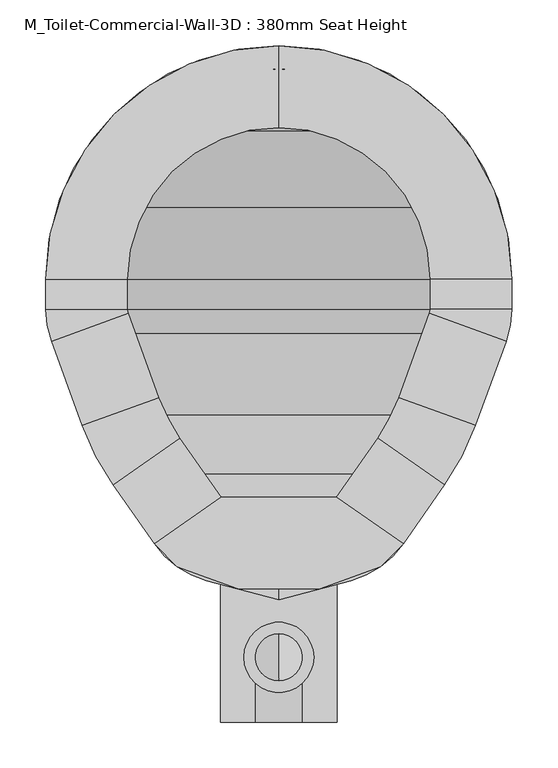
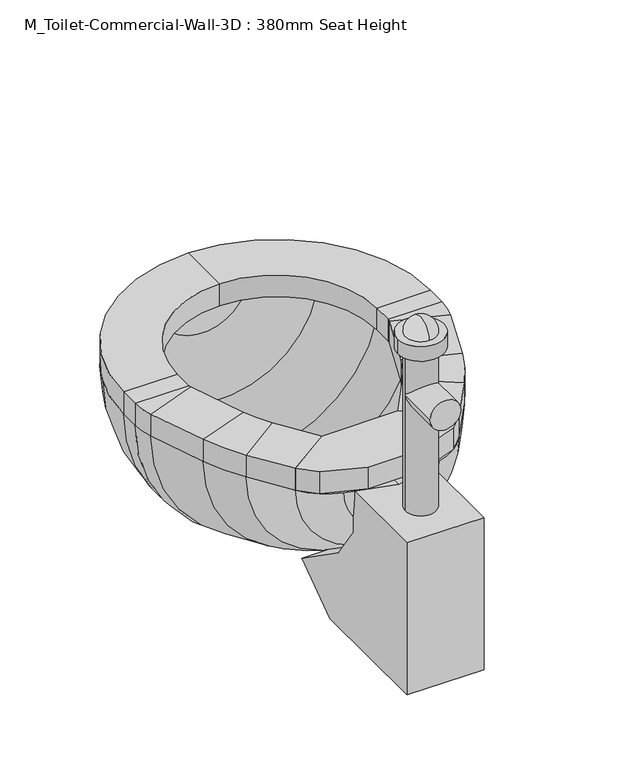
"""IFC4 building model written with IfcOpenShell, lengths in millimetres: flow terminal geometry, M_Toilet-Commercial-Wall-3D : 380mm Seat Height."""

import ifcopenshell
import ifcopenshell.guid

model = None  # the IFC model being written
_history = None  # IfcOwnerHistory: only IFC2X3 demands one
_inside = {}  # id of a spatial element -> (the spatial element, [elements in it])
_under = {}  # id of a project, library or spatial element -> (it, [spatial elements below it])
_declared = {}  # id of a project -> (the project, [libraries it declares])
_typed = {}  # id of a type object -> (the type object, [elements of that type])
_made_of = {}  # id of a material, layer set ... -> (it, [elements and type objects made of it])


def new_model(schema):
    """Start an empty IFC model of exactly this schema.

    Asked for "IFC4X3", IfcOpenShell would pick the latest addendum, in which some entities
    have other attributes; the version numbers below select the first issue.
    IFC2X3 requires an IfcOwnerHistory on every rooted entity: one is made here for all.
    """
    global model, _history
    if schema == "IFC4X3":
        model = ifcopenshell.file(schema_version=(4, 3, 0, 0))
    else:
        model = ifcopenshell.file(schema=schema)
    _inside.clear()
    _under.clear()
    _declared.clear()
    _typed.clear()
    _made_of.clear()
    _history = None
    if model.schema == "IFC2X3":
        org = make("IfcOrganization", Name="unknown")
        user = make(
            "IfcPersonAndOrganization",
            ThePerson=make("IfcPerson", FamilyName="unknown"),
            TheOrganization=org,
        )
        app = make(
            "IfcApplication",
            ApplicationDeveloper=org,
            Version="unknown",
            ApplicationFullName="unknown",
            ApplicationIdentifier="unknown",
        )
        _history = make(
            "IfcOwnerHistory",
            OwningUser=user,
            OwningApplication=app,
            ChangeAction="ADDED",
            CreationDate=0,
        )
    return model


def make(cls, **values):
    """One entity of the class cls with the attributes given. An attribute that is None is left unset."""
    return model.create_entity(
        cls, **{name: value for name, value in values.items() if value is not None}
    )


def rooted(cls, **values):
    """An entity with a GlobalId (a new one), such as an element, a storey or a relation."""
    return make(cls, GlobalId=ifcopenshell.guid.new(), OwnerHistory=_history, **values)


def si_unit(unit_type, name, prefix=None):
    """IfcSIUnit, for example si_unit("LENGTHUNIT", "METRE", prefix="MILLI")."""
    return make("IfcSIUnit", UnitType=unit_type, Prefix=prefix, Name=name)


def assignment(units):
    """IfcUnitAssignment: the units of a project."""
    return None if units is None else make("IfcUnitAssignment", Units=units)


def point(xyz):
    """IfcCartesianPoint."""
    return None if xyz is None else make("IfcCartesianPoint", Coordinates=xyz)


def direction(xyz):
    """IfcDirection."""
    return None if xyz is None else make("IfcDirection", DirectionRatios=xyz)


def frame(location, z_axis=None, x_axis=None):
    """IfcAxis2Placement3D, a coordinate frame: its origin and axes. An axis left out is left unset."""
    return make(
        "IfcAxis2Placement3D",
        Location=point(location),
        Axis=direction(z_axis),
        RefDirection=direction(x_axis),
    )


def frame_2d(location, x_axis=None):
    """IfcAxis2Placement2D, a coordinate frame in the plane: its origin and x axis."""
    return make(
        "IfcAxis2Placement2D", Location=point(location), RefDirection=direction(x_axis)
    )


def origin():
    """The frame at (0, 0, 0) with its axes left unset."""
    return frame((0.0, 0.0, 0.0))


def place(relative_to, where):
    """IfcLocalPlacement: puts the frame where relative to a parent placement (None: the world)."""
    return make(
        "IfcLocalPlacement", PlacementRelTo=relative_to, RelativePlacement=where
    )


def context(
    kind, dimensions, precision=None, world=None, true_north=None, identifier=None
):
    """IfcGeometricRepresentationContext, for example the 3D "Model" context."""
    return make(
        "IfcGeometricRepresentationContext",
        ContextIdentifier=identifier,
        ContextType=kind,
        CoordinateSpaceDimension=dimensions,
        Precision=precision,
        WorldCoordinateSystem=world,
        TrueNorth=true_north,
    )


def project(units=None, contexts=None):
    """IfcProject with its units and contexts."""
    return rooted(
        "IfcProject",
        Name="project",
        RepresentationContexts=contexts,
        UnitsInContext=assignment(units),
    )


def spatial(cls, under=None, at=None, **own):
    """A site, building, storey or space (cls), placed at a placement, below another one or the project."""
    s = rooted(cls, ObjectPlacement=at, **own)
    if under is not None:
        _under.setdefault(under.id(), (under, []))[1].append(s)
    return s


def polyline(points):
    """IfcPolyline through the points."""
    return make("IfcPolyline", Points=[point(p) for p in points])


def circle_curve(where, radius):
    """IfcCircle in the frame where."""
    return make("IfcCircle", Position=where, Radius=radius)


def ellipse_curve(where, semi_axis1, semi_axis2):
    """IfcEllipse in the frame where."""
    return make(
        "IfcEllipse", Position=where, SemiAxis1=semi_axis1, SemiAxis2=semi_axis2
    )


def trimmed(basis, trim1, trim2, sense, master):
    """IfcTrimmedCurve: the piece of a basis curve between two trims."""
    return make(
        "IfcTrimmedCurve",
        BasisCurve=basis,
        Trim1=trim1,
        Trim2=trim2,
        SenseAgreement=sense,
        MasterRepresentation=master,
    )


def segment(curve, same_sense, transition):
    """IfcCompositeCurveSegment."""
    return make(
        "IfcCompositeCurveSegment",
        Transition=transition,
        SameSense=same_sense,
        ParentCurve=curve,
    )


def composite_curve(segments, self_intersect=None):
    """IfcCompositeCurve: segments joined end to end."""
    return make("IfcCompositeCurve", Segments=segments, SelfIntersect=self_intersect)


def outline(outer, holes=None, kind="AREA"):
    """IfcArbitraryClosedProfileDef: a profile drawn as a closed curve; with holes, ...WithVoids."""
    if holes is None:
        return make("IfcArbitraryClosedProfileDef", ProfileType=kind, OuterCurve=outer)
    return make(
        "IfcArbitraryProfileDefWithVoids",
        ProfileType=kind,
        OuterCurve=outer,
        InnerCurves=holes,
    )


def extrude(swept, where, along, depth):
    """IfcExtrudedAreaSolid: the profile swept, set in the frame where, extruded along a direction by depth."""
    return make(
        "IfcExtrudedAreaSolid",
        SweptArea=swept,
        Position=where,
        ExtrudedDirection=direction(along),
        Depth=depth,
    )


def shape(context_of_items, identifier, shape_type, items):
    """IfcShapeRepresentation: the items that make up one representation, for example the "Body"."""
    return make(
        "IfcShapeRepresentation",
        ContextOfItems=context_of_items,
        RepresentationIdentifier=identifier,
        RepresentationType=shape_type,
        Items=items,
    )


def source(mapping_origin, context_of_items, identifier, shape_type, items):
    """IfcRepresentationMap: a shape defined once, which mapped items show again and again."""
    return make(
        "IfcRepresentationMap",
        MappingOrigin=mapping_origin,
        MappedRepresentation=shape(context_of_items, identifier, shape_type, items),
    )


def transform(
    local_origin,
    x_axis=None,
    y_axis=None,
    z_axis=None,
    scale=None,
    scale2=None,
    scale3=None,
    uniform=True,
):
    """IfcCartesianTransformationOperator3D, or its non-uniform kind. x_axis, y_axis, z_axis: its Axis1, 2, 3."""
    if uniform:
        return make(
            "IfcCartesianTransformationOperator3D",
            Axis1=direction(x_axis),
            Axis2=direction(y_axis),
            LocalOrigin=point(local_origin),
            Scale=scale,
            Axis3=direction(z_axis),
        )
    return make(
        "IfcCartesianTransformationOperator3DnonUniform",
        Axis1=direction(x_axis),
        Axis2=direction(y_axis),
        LocalOrigin=point(local_origin),
        Scale=scale,
        Axis3=direction(z_axis),
        Scale2=scale2,
        Scale3=scale3,
    )


def mapped(mapping_source, mapping_target):
    """IfcMappedItem: shows the shape of a source again, moved by a transform."""
    return make(
        "IfcMappedItem", MappingSource=mapping_source, MappingTarget=mapping_target
    )


def made_of(thing, what):
    """Note that an element or type object is made of a material, layer set ...; save() writes the relation."""
    if what is not None:
        _made_of.setdefault(what.id(), (what, []))[1].append(thing)
    return thing


def element(
    cls,
    number,
    at=None,
    inside=None,
    cuts=None,
    type_object=None,
    material=None,
    context=None,
    identifier="Body",
    shape_type=None,
    held_by="IfcProductDefinitionShape",
    body=None,
    shapes=None,
    **own,
):
    """One element of the class cls, such as IfcWall. Its Tag is "e" and its number.

    at: its placement. inside: the storey or other place that contains it. cuts: it is an
    opening in that element (IfcRelVoidsElement). A single representation is given by context,
    identifier, shape_type and body (its items); several are given by shapes. held_by: the class
    of the entity that holds the representations. save() writes the other relations.
    """
    e = rooted(cls, Tag="e%d" % number, ObjectPlacement=at, **own)
    if body is not None:
        shapes = [shape(context, identifier, shape_type, body)]
    if shapes is not None:
        e.Representation = make(held_by, Representations=shapes)
    if inside is not None:
        _inside.setdefault(inside.id(), (inside, []))[1].append(e)
    if cuts is not None:
        rooted(
            "IfcRelVoidsElement", RelatingBuildingElement=cuts, RelatedOpeningElement=e
        )
    if type_object is not None:
        _typed.setdefault(type_object.id(), (type_object, []))[1].append(e)
    return made_of(e, material)


def aggregate(whole, parts):
    """IfcRelAggregates: a whole, such as a stair, and the parts it consists of."""
    return rooted("IfcRelAggregates", RelatingObject=whole, RelatedObjects=parts)


def save(model, path):
    """Write the relations noted so far, then the file.

    IfcRelAggregates (storeys below a building ...), IfcRelContainedInSpatialStructure (elements
    in a storey), IfcRelDefinesByType, IfcRelAssociatesMaterial and IfcRelDeclares: one each for
    every whole, place, type object, material and project.
    """
    for whole, parts in _under.values():
        aggregate(whole, parts)
    for where, things in _inside.values():
        rooted(
            "IfcRelContainedInSpatialStructure",
            RelatedElements=things,
            RelatingStructure=where,
        )
    for kind, things in _typed.values():
        rooted("IfcRelDefinesByType", RelatedObjects=things, RelatingType=kind)
    for what, things in _made_of.values():
        rooted("IfcRelAssociatesMaterial", RelatedObjects=things, RelatingMaterial=what)
    for by, libraries in _declared.values():
        rooted("IfcRelDeclares", RelatingContext=by, RelatedDefinitions=libraries)
    model.write(path)


def plane_surface(at):
    """IfcPlane: the flat surface through the origin of the frame at, square to its z axis."""
    return make("IfcPlane", Position=at)


def cylinder_surface(at, radius):
    """IfcCylindricalSurface: all points at the distance radius from the z axis of the frame at."""
    return make("IfcCylindricalSurface", Position=at, Radius=radius)


def revolved_surface(curve, axis_point, axis_direction):
    """IfcSurfaceOfRevolution: the curve turned about the line through axis_point along axis_direction."""
    return make(
        "IfcSurfaceOfRevolution",
        SweptCurve=make("IfcArbitraryOpenProfileDef", ProfileType="CURVE", Curve=curve),
        AxisPosition=make("IfcAxis1Placement", Location=point(axis_point), Axis=direction(axis_direction)),
    )


def advanced_brep(points, edges, surfaces, faces):
    """IfcAdvancedBrep: a solid bounded by faces that lie on surfaces and meet in shared edges.

    An edge is (start, end): straight between two places in points (the first is 0);
    or (start, end, curve); or (start, end, curve, False) where it runs against its curve.
    A face is (place in surfaces, loops), or (place, loops, False) where it looks against
    its surface's normal. A loop lists edges by number (the first is 1), with a minus sign
    where the edge is run from its end to its start. The first loop is the outer one.
    """
    corners = [point(p) for p in points]
    vertices = [make("IfcVertexPoint", VertexGeometry=c) for c in corners]
    made = []
    for start, end, *more in edges:
        made.append(
            make(
                "IfcEdgeCurve",
                EdgeStart=vertices[start],
                EdgeEnd=vertices[end],
                EdgeGeometry=more[0] if more else make("IfcPolyline", Points=[corners[start], corners[end]]),
                SameSense=more[1] if len(more) > 1 else True,
            )
        )
    hull = []
    for where, loops, *sense in faces:
        bounds = []
        for j, loop in enumerate(loops):
            ring = [make("IfcOrientedEdge", EdgeElement=made[abs(k) - 1], Orientation=k > 0) for k in loop]
            bounds.append(
                make(
                    "IfcFaceOuterBound" if j == 0 else "IfcFaceBound",
                    Bound=make("IfcEdgeLoop", EdgeList=ring),
                    Orientation=True,
                )
            )
        hull.append(make("IfcAdvancedFace", Bounds=bounds, FaceSurface=surfaces[where], SameSense=sense[0] if sense else True))
    return make("IfcAdvancedBrep", Outer=make("IfcClosedShell", CfsFaces=hull))


def m_toilet_commercial_wall_3d_380mm_seat_height_891fc42f(model_context):
    return source(origin(), model_context, "Body", "SolidModel", [
        extrude(outline(polyline([(467.7541169, 420.0347495), (540.5767337, 369.0438043), (515.6262519, 344.0933226), (449.563909, 320.0485961), (360.2423986, 320.0485961), (294.1800557, 344.0933226), (269.229574, 369.0438043), (342.0521907, 420.0347495), (467.7541169, 420.0347495)])), frame((0.0, 0.0, 341.9), z_axis=(0.0, 0.0, 1.0), x_axis=(1.0, 0.0, 0.0)), (0.0, 0.0, 1.0), 38.1),
        advanced_brep(
        [(467.7541169, 420.0347495, 341.9), (540.5767337, 369.0438043, 341.9), (540.5767337, 369.0438043, 380.0), (467.7541169, 420.0347495, 380.0), (512.8583992, 484.4503403, 341.9), (585.6810159, 433.4593951, 341.9), (585.6810159, 433.4593951, 380.0), (512.8583992, 484.4503403, 380.0), (619.360053, 498.1562234, 341.9), (535.821379, 528.5618141, 341.9), (619.360053, 498.1562234, 380.0), (535.821379, 528.5618141, 380.0), (569.2372501, 620.3711654, 341.9), (652.7759241, 589.9655747, 341.9), (652.7759241, 589.9655747, 380.0), (569.2372501, 620.3711654, 380.0), (658.9031538, 624.7148212, 341.9), (570.0031538, 624.7148212, 341.9), (658.9031538, 624.7148212, 380.0), (570.0031538, 624.7148212, 380.0), (570.0031538, 657.6, 341.9), (658.9031538, 657.6, 341.9), (658.9031538, 657.6, 380.0), (570.0031538, 657.6, 380.0), (404.9031538, 911.6, 341.9), (404.9031538, 822.7, 341.9), (404.9031538, 911.6, 380.0), (404.9031538, 822.7, 380.0), (150.9031538, 657.6, 341.9), (239.8031538, 657.6, 341.9), (150.9031538, 657.6, 380.0), (239.8031538, 657.6, 380.0), (239.8031538, 624.7148212, 341.9), (150.9031538, 624.7148212, 341.9), (150.9031538, 624.7148212, 380.0), (239.8031538, 624.7148212, 380.0), (157.0303835, 589.9655747, 341.9), (240.5690575, 620.3711654, 341.9), (157.0303835, 589.9655747, 380.0), (240.5690575, 620.3711654, 380.0), (273.9849286, 528.5618141, 341.9), (190.4462546, 498.1562234, 341.9), (190.4462546, 498.1562234, 380.0), (273.9849286, 528.5618141, 380.0), (224.1252917, 433.4593951, 341.9), (296.9479084, 484.4503403, 341.9), (224.1252917, 433.4593951, 380.0), (296.9479084, 484.4503403, 380.0), (342.0521907, 420.0347495, 341.9), (342.0521907, 420.0347495, 380.0), (269.229574, 369.0438043, 380.0), (269.229574, 369.0438043, 341.9)],
        [
            (0, 1),
            (1, 2),
            (2, 3),
            (3, 0),
            (0, 4),
            (4, 5),
            (5, 1),
            (5, 6),
            (6, 2),
            (6, 7),
            (7, 3),
            (7, 4),
            (8, 5, circle_curve(frame((356.8099347, 593.7166514, 341.9), z_axis=(0.0, 0.0, -1.0), x_axis=(0.819152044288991, -0.5735764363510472, 0.0)), 279.4)),
            (4, 9, circle_curve(frame((356.8099347, 593.7166514, 341.9), z_axis=(0.0, 0.0, 1.0), x_axis=(0.819152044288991, -0.5735764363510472, 0.0)), 190.5)),
            (9, 8),
            (10, 6, circle_curve(frame((356.8099347, 593.7166514, 380.0), z_axis=(0.0, 0.0, -1.0), x_axis=(0.819152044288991, -0.5735764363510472, 0.0)), 279.4)),
            (8, 10),
            (11, 7, circle_curve(frame((356.8099347, 593.7166514, 380.0), z_axis=(0.0, 0.0, -1.0), x_axis=(0.819152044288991, -0.5735764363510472, 0.0)), 190.5)),
            (10, 11),
            (11, 9),
            (9, 12),
            (12, 13),
            (13, 8),
            (13, 14),
            (14, 10),
            (14, 15),
            (15, 11),
            (15, 12),
            (16, 13, circle_curve(frame((557.3031538, 624.7148212, 341.9), z_axis=(0.0, 0.0, -1.0), x_axis=(0.9396926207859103, -0.34202014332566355, 0.0)), 101.6)),
            (12, 17, circle_curve(frame((557.3031538, 624.7148212, 341.9), z_axis=(0.0, 0.0, 1.0), x_axis=(0.9396926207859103, -0.34202014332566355, 0.0)), 12.7)),
            (17, 16),
            (18, 14, circle_curve(frame((557.3031538, 624.7148212, 380.0), z_axis=(0.0, 0.0, -1.0), x_axis=(0.9396926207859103, -0.34202014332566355, 0.0)), 101.6)),
            (16, 18),
            (19, 15, circle_curve(frame((557.3031538, 624.7148212, 380.0), z_axis=(0.0, 0.0, -1.0), x_axis=(0.9396926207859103, -0.34202014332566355, 0.0)), 12.7)),
            (18, 19),
            (19, 17),
            (17, 20),
            (20, 21),
            (21, 16),
            (21, 22),
            (22, 18),
            (22, 23),
            (23, 19),
            (23, 20),
            (24, 21, circle_curve(frame((404.9031538, 657.6, 341.9), z_axis=(0.0, 0.0, -1.0), x_axis=(1.0, 0.0, 0.0)), 254.0)),
            (20, 25, circle_curve(frame((404.9031538, 657.6, 341.9), z_axis=(0.0, 0.0, 1.0), x_axis=(1.0, 0.0, 0.0)), 165.1)),
            (25, 24),
            (26, 22, circle_curve(frame((404.9031538, 657.6, 380.0), z_axis=(0.0, 0.0, -1.0), x_axis=(1.0, 0.0, 0.0)), 254.0)),
            (24, 26),
            (27, 23, circle_curve(frame((404.9031538, 657.6, 380.0), z_axis=(0.0, 0.0, -1.0), x_axis=(1.0, 0.0, 0.0)), 165.1)),
            (26, 27),
            (27, 25),
            (28, 24, circle_curve(frame((404.9031538, 657.6, 341.9), z_axis=(0.0, 0.0, -1.0), x_axis=(0.0, 1.0, 0.0)), 254.0)),
            (25, 29, circle_curve(frame((404.9031538, 657.6, 341.9), z_axis=(0.0, 0.0, 1.0), x_axis=(0.0, 1.0, 0.0)), 165.1)),
            (29, 28),
            (30, 26, circle_curve(frame((404.9031538, 657.6, 380.0), z_axis=(0.0, 0.0, -1.0), x_axis=(0.0, 1.0, 0.0)), 254.0)),
            (28, 30),
            (31, 27, circle_curve(frame((404.9031538, 657.6, 380.0), z_axis=(0.0, 0.0, -1.0), x_axis=(0.0, 1.0, 0.0)), 165.1)),
            (30, 31),
            (31, 29),
            (29, 32),
            (32, 33),
            (33, 28),
            (33, 34),
            (34, 30),
            (34, 35),
            (35, 31),
            (35, 32),
            (36, 33, circle_curve(frame((252.5031538, 624.7148212, 341.9), z_axis=(0.0, 0.0, -1.0), x_axis=(-1.0, 0.0, 0.0)), 101.6)),
            (32, 37, circle_curve(frame((252.5031538, 624.7148212, 341.9), z_axis=(0.0, 0.0, 1.0), x_axis=(-1.0, 0.0, 0.0)), 12.7)),
            (37, 36),
            (38, 34, circle_curve(frame((252.5031538, 624.7148212, 380.0), z_axis=(0.0, 0.0, -1.0), x_axis=(-1.0, 0.0, 0.0)), 101.6)),
            (36, 38),
            (39, 35, circle_curve(frame((252.5031538, 624.7148212, 380.0), z_axis=(0.0, 0.0, -1.0), x_axis=(-1.0, 0.0, 0.0)), 12.7)),
            (38, 39),
            (39, 37),
            (37, 40),
            (40, 41),
            (41, 36),
            (41, 42),
            (42, 38),
            (42, 43),
            (43, 39),
            (43, 40),
            (44, 41, circle_curve(frame((452.9963729, 593.7166514, 341.9), z_axis=(0.0, 0.0, -1.0), x_axis=(-0.9396926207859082, -0.3420201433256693, 0.0)), 279.4)),
            (40, 45, circle_curve(frame((452.9963729, 593.7166514, 341.9), z_axis=(0.0, 0.0, 1.0), x_axis=(-0.9396926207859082, -0.3420201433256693, 0.0)), 190.5)),
            (45, 44),
            (46, 42, circle_curve(frame((452.9963729, 593.7166514, 380.0), z_axis=(0.0, 0.0, -1.0), x_axis=(-0.9396926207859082, -0.3420201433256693, 0.0)), 279.4)),
            (44, 46),
            (47, 43, circle_curve(frame((452.9963729, 593.7166514, 380.0), z_axis=(0.0, 0.0, -1.0), x_axis=(-0.9396926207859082, -0.3420201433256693, 0.0)), 190.5)),
            (46, 47),
            (47, 45),
            (48, 49),
            (49, 50),
            (50, 51),
            (51, 48),
            (45, 48),
            (51, 44),
            (50, 46),
            (49, 47),
        ],
        [
            plane_surface(frame((540.5767337, 369.0438043, 438.6203184), z_axis=(-0.5735764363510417, -0.8191520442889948, 0.0), x_axis=(0.8191520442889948, -0.5735764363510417, 0.0))),
            plane_surface(frame((467.7541169, 420.0347495, 341.9), z_axis=(0.0, 0.0, -1.0), x_axis=(0.5735764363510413, 0.8191520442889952, 0.0))),
            plane_surface(frame((540.5767337, 369.0438043, 341.9), z_axis=(0.819152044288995, -0.5735764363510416, 0.0), x_axis=(0.5735764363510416, 0.819152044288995, 0.0))),
            plane_surface(frame((540.5767337, 369.0438043, 380.0), z_axis=(0.0, 0.0, 1.0), x_axis=(0.5735764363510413, 0.8191520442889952, 0.0))),
            plane_surface(frame((467.7541169, 420.0347495, 380.0), z_axis=(-0.819152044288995, 0.5735764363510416, 0.0), x_axis=(0.5735764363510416, 0.819152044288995, 0.0))),
            plane_surface(frame((356.8099347, 593.7166514, 341.9), z_axis=(0.0, 0.0, -1.0), x_axis=(0.819152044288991, -0.5735764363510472, 0.0))),
            cylinder_surface(frame((356.8099347, 593.7166514, 341.9), z_axis=(0.0, 0.0, 1.0), x_axis=(0.819152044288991, -0.5735764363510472, 0.0)), 279.4),
            plane_surface(frame((356.8099347, 593.7166514, 380.0), z_axis=(0.0, 0.0, 1.0), x_axis=(0.819152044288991, -0.5735764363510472, 0.0))),
            revolved_surface(polyline([(512.8583991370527, 484.45034027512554, 380.0), (512.8583991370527, 484.45034027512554, 341.9)]), (356.8099347, 593.7166514, 341.9), (0.0, 0.0, 1.0)),
            plane_surface(frame((535.821379, 528.5618141, 341.9), z_axis=(0.0, 0.0, -1.0), x_axis=(0.34202014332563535, 0.9396926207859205, 0.0))),
            plane_surface(frame((619.360053, 498.1562234, 341.9), z_axis=(0.9396926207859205, -0.3420201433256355, 0.0), x_axis=(0.3420201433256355, 0.9396926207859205, 0.0))),
            plane_surface(frame((619.360053, 498.1562234, 380.0), z_axis=(0.0, 0.0, 1.0), x_axis=(0.34202014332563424, 0.939692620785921, 0.0))),
            plane_surface(frame((535.821379, 528.5618141, 380.0), z_axis=(-0.9396926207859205, 0.34202014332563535, 0.0), x_axis=(0.34202014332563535, 0.9396926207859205, 0.0))),
            plane_surface(frame((557.3031538, 624.7148212, 341.9), z_axis=(0.0, 0.0, -1.0), x_axis=(0.9396926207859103, -0.34202014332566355, 0.0))),
            cylinder_surface(frame((557.3031538, 624.7148212, 341.9), z_axis=(0.0, 0.0, 1.0), x_axis=(0.9396926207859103, -0.34202014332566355, 0.0)), 101.6),
            plane_surface(frame((557.3031538, 624.7148212, 380.0), z_axis=(0.0, 0.0, 1.0), x_axis=(0.9396926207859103, -0.34202014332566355, 0.0))),
            revolved_surface(polyline([(569.237250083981, 620.3711653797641, 380.0), (569.237250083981, 620.3711653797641, 341.9)]), (557.3031538, 624.7148212, 341.9), (0.0, 0.0, 1.0)),
            plane_surface(frame((570.0031538, 624.7148212, 341.9), z_axis=(0.0, 0.0, -1.0), x_axis=(0.0, 1.0, 0.0))),
            plane_surface(frame((658.9031538, 624.7148212, 341.9), z_axis=(1.0, 0.0, 0.0), x_axis=(0.0, 1.0, 0.0))),
            plane_surface(frame((658.9031538, 624.7148212, 380.0), z_axis=(0.0, 0.0, 1.0), x_axis=(0.0, 1.0, 0.0))),
            plane_surface(frame((570.0031538, 624.7148212, 380.0), z_axis=(-1.0, 0.0, 0.0), x_axis=(0.0, 1.0, 0.0))),
            plane_surface(frame((404.9031538, 657.6, 341.9), z_axis=(0.0, 0.0, -1.0), x_axis=(1.0, 0.0, 0.0))),
            cylinder_surface(frame((404.9031538, 657.6, 341.9), z_axis=(0.0, 0.0, 1.0), x_axis=(1.0, 0.0, 0.0)), 254.0),
            plane_surface(frame((404.9031538, 657.6, 380.0), z_axis=(0.0, 0.0, 1.0), x_axis=(1.0, 0.0, 0.0))),
            revolved_surface(polyline([(570.0031538, 657.6, 380.0), (570.0031538, 657.6, 341.9)]), (404.9031538, 657.6, 341.9), (0.0, 0.0, 1.0)),
            plane_surface(frame((404.9031538, 657.6, 341.9), z_axis=(0.0, 0.0, -1.0), x_axis=(0.0, 1.0, 0.0))),
            cylinder_surface(frame((404.9031538, 657.6, 341.9), z_axis=(0.0, 0.0, 1.0), x_axis=(0.0, 1.0, 0.0)), 254.0),
            plane_surface(frame((404.9031538, 657.6, 380.0), z_axis=(0.0, 0.0, 1.0), x_axis=(0.0, 1.0, 0.0))),
            revolved_surface(polyline([(404.9031538, 822.7, 380.0), (404.9031538, 822.7, 341.9)]), (404.9031538, 657.6, 341.9), (0.0, 0.0, 1.0)),
            plane_surface(frame((239.8031538, 657.6, 341.9), z_axis=(0.0, 0.0, -1.0), x_axis=(0.0, -1.0, 0.0))),
            plane_surface(frame((150.9031538, 657.6, 341.9), z_axis=(-1.0, 0.0, 0.0), x_axis=(0.0, -1.0, 0.0))),
            plane_surface(frame((150.9031538, 657.6, 380.0), z_axis=(0.0, 0.0, 1.0), x_axis=(0.0, -1.0, 0.0))),
            plane_surface(frame((239.8031538, 657.6, 380.0), z_axis=(1.0, 0.0, 0.0), x_axis=(0.0, -1.0, 0.0))),
            plane_surface(frame((252.5031538, 624.7148212, 341.9), z_axis=(0.0, 0.0, -1.0), x_axis=(-1.0, 0.0, 0.0))),
            cylinder_surface(frame((252.5031538, 624.7148212, 341.9), z_axis=(0.0, 0.0, 1.0), x_axis=(-1.0, 0.0, 0.0)), 101.6),
            plane_surface(frame((252.5031538, 624.7148212, 380.0), z_axis=(0.0, 0.0, 1.0), x_axis=(-1.0, 0.0, 0.0))),
            revolved_surface(polyline([(239.80315380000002, 624.7148212, 380.0), (239.80315380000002, 624.7148212, 341.9)]), (252.5031538, 624.7148212, 341.9), (0.0, 0.0, 1.0)),
            plane_surface(frame((240.5690575, 620.3711654, 341.9), z_axis=(0.0, 0.0, -1.0), x_axis=(0.3420201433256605, -0.9396926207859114, 0.0))),
            plane_surface(frame((157.0303835, 589.9655747, 341.9), z_axis=(-0.9396926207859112, -0.342020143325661, 0.0), x_axis=(0.342020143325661, -0.9396926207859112, 0.0))),
            plane_surface(frame((157.0303835, 589.9655747, 380.0), z_axis=(0.0, 0.0, 1.0), x_axis=(0.3420201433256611, -0.9396926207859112, 0.0))),
            plane_surface(frame((240.5690575, 620.3711654, 380.0), z_axis=(0.9396926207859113, 0.3420201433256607, 0.0), x_axis=(0.3420201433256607, -0.9396926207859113, 0.0))),
            plane_surface(frame((452.9963729, 593.7166514, 341.9), z_axis=(0.0, 0.0, -1.0), x_axis=(-0.9396926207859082, -0.3420201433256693, 0.0))),
            cylinder_surface(frame((452.9963729, 593.7166514, 341.9), z_axis=(0.0, 0.0, 1.0), x_axis=(-0.9396926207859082, -0.3420201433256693, 0.0)), 279.4),
            plane_surface(frame((452.9963729, 593.7166514, 380.0), z_axis=(0.0, 0.0, 1.0), x_axis=(-0.9396926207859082, -0.3420201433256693, 0.0))),
            revolved_surface(polyline([(273.98492864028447, 528.56181409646, 380.0), (273.98492864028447, 528.56181409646, 341.9)]), (452.9963729, 593.7166514, 341.9), (0.0, 0.0, 1.0)),
            plane_surface(frame((269.229574, 369.0438043, 245.1796816), z_axis=(0.5735764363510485, -0.8191520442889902, 0.0), x_axis=(0.8191520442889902, 0.5735764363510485, 0.0))),
            plane_surface(frame((296.9479084, 484.4503403, 341.9), z_axis=(0.0, 0.0, -1.0000000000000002), x_axis=(0.5735764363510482, -0.8191520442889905, 0.0))),
            plane_surface(frame((224.1252917, 433.4593951, 341.9), z_axis=(-0.8191520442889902, -0.5735764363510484, 0.0), x_axis=(0.5735764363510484, -0.8191520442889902, 0.0))),
            plane_surface(frame((224.1252917, 433.4593951, 380.0), z_axis=(0.0, 0.0, 1.0), x_axis=(0.5735764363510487, -0.8191520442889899, 0.0))),
            plane_surface(frame((296.9479084, 484.4503403, 380.0), z_axis=(0.8191520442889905, 0.5735764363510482, 0.0), x_axis=(0.5735764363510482, -0.8191520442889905, 0.0))),
        ],
        [
            (0, [[1, 2, 3, 4]]),
            (1, [[-1, 5, 6, 7]]),
            (2, [[-2, -7, 8, 9]]),
            (3, [[-3, -9, 10, 11]]),
            (4, [[-4, -11, 12, -5]]),
            (5, [[13, -6, 14, 15]]),
            (6, [[16, -8, -13, 17]]),
            (7, [[18, -10, -16, 19]]),
            (8, [[-14, -12, -18, 20]]),
            (9, [[-15, 21, 22, 23]]),
            (10, [[-17, -23, 24, 25]]),
            (11, [[-19, -25, 26, 27]]),
            (12, [[-20, -27, 28, -21]]),
            (13, [[29, -22, 30, 31]]),
            (14, [[32, -24, -29, 33]]),
            (15, [[34, -26, -32, 35]]),
            (16, [[-30, -28, -34, 36]]),
            (17, [[-31, 37, 38, 39]]),
            (18, [[-33, -39, 40, 41]]),
            (19, [[-35, -41, 42, 43]]),
            (20, [[-36, -43, 44, -37]]),
            (21, [[45, -38, 46, 47]]),
            (22, [[48, -40, -45, 49]]),
            (23, [[50, -42, -48, 51]]),
            (24, [[-46, -44, -50, 52]]),
            (25, [[53, -47, 54, 55]]),
            (26, [[56, -49, -53, 57]]),
            (27, [[58, -51, -56, 59]]),
            (28, [[-54, -52, -58, 60]]),
            (29, [[-55, 61, 62, 63]]),
            (30, [[-57, -63, 64, 65]]),
            (31, [[-59, -65, 66, 67]]),
            (32, [[-60, -67, 68, -61]]),
            (33, [[69, -62, 70, 71]]),
            (34, [[72, -64, -69, 73]]),
            (35, [[74, -66, -72, 75]]),
            (36, [[-70, -68, -74, 76]]),
            (37, [[-71, 77, 78, 79]]),
            (38, [[-73, -79, 80, 81]]),
            (39, [[-75, -81, 82, 83]]),
            (40, [[-76, -83, 84, -77]]),
            (41, [[85, -78, 86, 87]]),
            (42, [[88, -80, -85, 89]]),
            (43, [[90, -82, -88, 91]]),
            (44, [[-86, -84, -90, 92]]),
            (45, [[93, 94, 95, 96]]),
            (46, [[-87, 97, -96, 98]]),
            (47, [[-89, -98, -95, 99]]),
            (48, [[-91, -99, -94, 100]]),
            (49, [[-92, -100, -93, -97]]),
        ],
    ),
        advanced_brep(
        [(491.7762702, 896.2819257, 341.9), (404.9031538, 911.6, 341.9), (404.9031538, 886.2, 341.9), (483.0889586, 872.4137331, 341.9), (566.547764, 819.2446102, 341.9), (619.7168869, 735.7858048, 341.9), (633.5031538, 657.6, 341.9), (633.5031538, 624.7148212, 341.9), (628.9077315, 598.6528863, 341.9), (596.6355667, 509.9858422, 341.9), (562.9565296, 445.2890139, 341.9), (525.0728964, 391.1855786, 341.9), (468.1430637, 351.3228806, 341.9), (404.9031538, 334.3777978, 341.9), (404.9031538, 308.0817829, 341.9), (483.6469009, 329.1811063, 341.9), (540.5767337, 369.0438043, 341.9), (585.6810159, 433.4593951, 341.9), (619.360053, 498.1562234, 341.9), (652.7759241, 589.9655747, 341.9), (658.9031538, 624.7148212, 341.9), (658.9031538, 657.6, 341.9), (643.5850795, 744.4731164, 341.9), (584.5082762, 837.2051224, 341.9), (318.0300374, 896.2819257, 341.9), (225.2980314, 837.2051224, 341.9), (166.2212281, 744.4731164, 341.9), (150.9031538, 657.6, 341.9), (150.9031538, 624.7148212, 341.9), (157.0303835, 589.9655747, 341.9), (190.4462546, 498.1562234, 341.9), (224.1252917, 433.4593951, 341.9), (269.229574, 369.0438043, 341.9), (326.1594067, 329.1811063, 341.9), (341.663244, 351.3228806, 341.9), (284.7334112, 391.1855786, 341.9), (246.849778, 445.2890139, 341.9), (213.1707409, 509.9858422, 341.9), (180.8985761, 598.6528863, 341.9), (176.3031538, 624.7148212, 341.9), (176.3031538, 657.6, 341.9), (190.0894207, 735.7858048, 341.9), (243.2585436, 819.2446102, 341.9), (326.7173491, 872.4137331, 341.9)],
        [
            (0, 1, circle_curve(frame((404.9031538, 657.6, 341.9), z_axis=(0.0, 0.0, 1.0), x_axis=(1.0, 0.0, 0.0)), 254.0)),
            (1, 2),
            (2, 3, circle_curve(frame((404.9031538, 657.6, 341.9), z_axis=(0.0, 0.0, -1.0), x_axis=(1.0, 0.0, 0.0)), 228.6)),
            (3, 4, circle_curve(frame((404.9031538, 657.6, 341.9), z_axis=(0.0, 0.0, -1.0), x_axis=(1.0, 0.0, 0.0)), 228.6)),
            (4, 5, circle_curve(frame((404.9031538, 657.6, 341.9), z_axis=(0.0, 0.0, -1.0), x_axis=(1.0, 0.0, 0.0)), 228.6)),
            (5, 6, circle_curve(frame((404.9031538, 657.6, 341.9), z_axis=(0.0, 0.0, -1.0), x_axis=(1.0, 0.0, 0.0)), 228.6)),
            (6, 7),
            (7, 8, circle_curve(frame((557.3031538, 624.7148212, 341.9), z_axis=(0.0, 0.0, -1.0), x_axis=(1.0, 0.0, 0.0)), 76.2)),
            (8, 9),
            (9, 10, circle_curve(frame((334.0854485, 605.5462703, 341.9), z_axis=(0.0, 0.0, -1.0), x_axis=(1.0, 0.0, 0.0)), 279.4)),
            (10, 11),
            (11, 12, circle_curve(frame((441.8470487, 449.4609446, 341.9), z_axis=(0.0, 0.0, -1.0), x_axis=(1.0, 0.0, 0.0)), 101.6)),
            (12, 13),
            (13, 14),
            (14, 15),
            (15, 16, circle_curve(frame((457.350886, 427.3191703, 341.9), z_axis=(0.0, 0.0, 1.0), x_axis=(1.0, 0.0, 0.0)), 101.6)),
            (16, 17),
            (17, 18, circle_curve(frame((356.8099347, 593.7166514, 341.9), z_axis=(0.0, 0.0, 1.0), x_axis=(1.0, 0.0, 0.0)), 279.4)),
            (18, 19),
            (19, 20, circle_curve(frame((557.3031538, 624.7148212, 341.9), z_axis=(0.0, 0.0, 1.0), x_axis=(1.0, 0.0, 0.0)), 101.6)),
            (20, 21),
            (21, 22, circle_curve(frame((404.9031538, 657.6, 341.9), z_axis=(0.0, 0.0, 1.0), x_axis=(1.0, 0.0, 0.0)), 254.0)),
            (22, 23, circle_curve(frame((404.9031538, 657.6, 341.9), z_axis=(0.0, 0.0, 1.0), x_axis=(1.0, 0.0, 0.0)), 254.0)),
            (23, 0, circle_curve(frame((404.9031538, 657.6, 341.9), z_axis=(0.0, 0.0, 1.0), x_axis=(1.0, 0.0, 0.0)), 254.0)),
            (24, 25, circle_curve(frame((404.9031538, 657.6, 341.9), z_axis=(0.0, 0.0, 1.0), x_axis=(-1.0, 0.0, 0.0)), 254.0)),
            (25, 26, circle_curve(frame((404.9031538, 657.6, 341.9), z_axis=(0.0, 0.0, 1.0), x_axis=(-1.0, 0.0, 0.0)), 254.0)),
            (26, 27, circle_curve(frame((404.9031538, 657.6, 341.9), z_axis=(0.0, 0.0, 1.0), x_axis=(-1.0, 0.0, 0.0)), 254.0)),
            (27, 28),
            (28, 29, circle_curve(frame((252.5031538, 624.7148212, 341.9), z_axis=(0.0, 0.0, 1.0), x_axis=(-1.0, 0.0, 0.0)), 101.6)),
            (29, 30),
            (30, 31, circle_curve(frame((452.9963729, 593.7166514, 341.9), z_axis=(0.0, 0.0, 1.0), x_axis=(-1.0, 0.0, 0.0)), 279.4)),
            (31, 32),
            (32, 33, circle_curve(frame((352.4554217, 427.3191703, 341.9), z_axis=(0.0, 0.0, 1.0), x_axis=(-1.0, 0.0, 0.0)), 101.6)),
            (33, 14),
            (13, 34),
            (34, 35, circle_curve(frame((367.9592589, 449.4609446, 341.9), z_axis=(0.0, 0.0, -1.0), x_axis=(-1.0, 0.0, 0.0)), 101.6)),
            (35, 36),
            (36, 37, circle_curve(frame((475.7208592, 605.5462703, 341.9), z_axis=(0.0, 0.0, -1.0), x_axis=(-1.0, 0.0, 0.0)), 279.4)),
            (37, 38),
            (38, 39, circle_curve(frame((252.5031538, 624.7148212, 341.9), z_axis=(0.0, 0.0, -1.0), x_axis=(-1.0, 0.0, 0.0)), 76.2)),
            (39, 40),
            (40, 41, circle_curve(frame((404.9031538, 657.6, 341.9), z_axis=(0.0, 0.0, -1.0), x_axis=(-1.0, 0.0, 0.0)), 228.6)),
            (41, 42, circle_curve(frame((404.9031538, 657.6, 341.9), z_axis=(0.0, 0.0, -1.0), x_axis=(-1.0, 0.0, 0.0)), 228.6)),
            (42, 43, circle_curve(frame((404.9031538, 657.6, 341.9), z_axis=(0.0, 0.0, -1.0), x_axis=(-1.0, 0.0, 0.0)), 228.6)),
            (43, 2, circle_curve(frame((404.9031538, 657.6, 341.9), z_axis=(0.0, 0.0, -1.0), x_axis=(-1.0, 0.0, 0.0)), 228.6)),
            (1, 24, circle_curve(frame((404.9031538, 657.6, 341.9), z_axis=(0.0, 0.0, 1.0), x_axis=(-1.0, 0.0, 0.0)), 254.0)),
            (0, 24, circle_curve(frame((404.9031538, 896.2819257, 341.9), z_axis=(0.0, 1.0, 0.0), x_axis=(1.0, 0.0, 0.0)), 86.8731164)),
            (43, 3, circle_curve(frame((404.9031538, 872.4137331, 341.9), z_axis=(0.0, -1.0, 0.0), x_axis=(1.0, 0.0, 0.0)), 78.1858048)),
            (42, 4, circle_curve(frame((404.9031538, 819.2446102, 341.9), z_axis=(0.0, -1.0, 0.0), x_axis=(1.0, 0.0, 0.0)), 161.6446102)),
            (41, 5, circle_curve(frame((404.9031538, 735.7858048, 341.9), z_axis=(0.0, -1.0, 0.0), x_axis=(1.0, 0.0, 0.0)), 214.8137331)),
            (40, 6, circle_curve(frame((404.9031538, 657.6, 341.9), z_axis=(0.0, -1.0, 0.0), x_axis=(1.0, 0.0, 0.0)), 228.6)),
            (39, 7, circle_curve(frame((404.9031538, 624.7148212, 341.9), z_axis=(0.0, -1.0, 0.0), x_axis=(1.0, 0.0, 0.0)), 228.6)),
            (38, 8, circle_curve(frame((404.9031538, 598.6528863, 341.9), z_axis=(0.0, -1.0, 0.0), x_axis=(1.0, 0.0, 0.0)), 224.0045777)),
            (37, 9, circle_curve(frame((404.9031538, 509.9858422, 341.9), z_axis=(0.0, -1.0, 0.0), x_axis=(1.0, 0.0, 0.0)), 191.7324129)),
            (36, 10, circle_curve(frame((404.9031538, 445.2890139, 341.9), z_axis=(0.0, -1.0, 0.0), x_axis=(1.0, 0.0, 0.0)), 158.0533758)),
            (35, 11, circle_curve(frame((404.9031538, 391.1855786, 341.9), z_axis=(0.0, -1.0, 0.0), x_axis=(1.0, 0.0, 0.0)), 120.1697426)),
            (34, 12, circle_curve(frame((404.9031538, 351.3228806, 341.9), z_axis=(0.0, -1.0, 0.0), x_axis=(1.0, 0.0, 0.0)), 63.2399099)),
            (33, 15, circle_curve(frame((404.9031538, 329.1811063, 341.9), z_axis=(0.0, -1.0, 0.0), x_axis=(1.0, 0.0, 0.0)), 78.7437471)),
            (32, 16, circle_curve(frame((404.9031538, 369.0438043, 341.9), z_axis=(0.0, -1.0, 0.0), x_axis=(1.0, 0.0, 0.0)), 135.6735798)),
            (31, 17, circle_curve(frame((404.9031538, 433.4593951, 341.9), z_axis=(0.0, -1.0, 0.0), x_axis=(1.0, 0.0, 0.0)), 180.7778621)),
            (30, 18, circle_curve(frame((404.9031538, 498.1562234, 341.9), z_axis=(0.0, -1.0, 0.0), x_axis=(1.0, 0.0, 0.0)), 214.4568992)),
            (29, 19, circle_curve(frame((404.9031538, 589.9655747, 341.9), z_axis=(0.0, -1.0, 0.0), x_axis=(1.0, 0.0, 0.0)), 247.8727703)),
            (28, 20, circle_curve(frame((404.9031538, 624.7148212, 341.9), z_axis=(0.0, -1.0, 0.0), x_axis=(1.0, 0.0, 0.0)), 254.0)),
            (27, 21, circle_curve(frame((404.9031538, 657.6, 341.9), z_axis=(0.0, -1.0, 0.0), x_axis=(1.0, 0.0, 0.0)), 254.0)),
            (26, 22, circle_curve(frame((404.9031538, 744.4731164, 341.9), z_axis=(0.0, -1.0, 0.0), x_axis=(1.0, 0.0, 0.0)), 238.6819257)),
            (25, 23, circle_curve(frame((404.9031538, 837.2051224, 341.9), z_axis=(0.0, -1.0, 0.0), x_axis=(1.0, 0.0, 0.0)), 179.6051224)),
        ],
        [
            plane_surface(frame((404.9031538, 1016.8102448, 341.9), z_axis=(0.0, 0.0, 1.0), x_axis=(1.0, 0.0, 0.0))),
            plane_surface(frame((404.9031538, 1016.8102448, 341.9), z_axis=(0.0, 0.0, 1.0), x_axis=(-1.0, 0.0, 0.0))),
            revolved_surface(trimmed(ellipse_curve(frame((404.9031538, 657.6, 341.9), z_axis=(0.0, 0.0, 1.0), x_axis=(1.0, 0.0, 0.0)), 254.0, 254.0), [point((491.7762702, 896.2819257, 341.9))], [point((404.9031538, 911.6, 341.9))], True, "CARTESIAN"), (404.9031538, 1016.8102448, 341.9), (0.0, 1.0, 0.0)),
            revolved_surface(trimmed(ellipse_curve(frame((404.9031538, 657.6, 341.9), z_axis=(0.0, 0.0, -1.0), x_axis=(1.0, 0.0, 0.0)), 228.6, 228.6), [point((404.9031538, 886.2, 341.9))], [point((483.0889586, 872.4137331, 341.9))], True, "CARTESIAN"), (404.9031538, 1016.8102448, 341.9), (0.0, 1.0, 0.0)),
            revolved_surface(trimmed(ellipse_curve(frame((404.9031538, 657.6, 341.9), z_axis=(0.0, 0.0, -1.0), x_axis=(1.0, 0.0, 0.0)), 228.6, 228.6), [point((483.0889586, 872.4137331, 341.9))], [point((566.547764, 819.2446102, 341.9))], True, "CARTESIAN"), (404.9031538, 1016.8102448, 341.9), (0.0, 1.0, 0.0)),
            revolved_surface(trimmed(ellipse_curve(frame((404.9031538, 657.6, 341.9), z_axis=(0.0, 0.0, -1.0), x_axis=(1.0, 0.0, 0.0)), 228.6, 228.6), [point((566.547764, 819.2446102, 341.9))], [point((619.7168869, 735.7858048, 341.9))], True, "CARTESIAN"), (404.9031538, 1016.8102448, 341.9), (0.0, 1.0, 0.0)),
            revolved_surface(trimmed(ellipse_curve(frame((404.9031538, 657.6, 341.9), z_axis=(0.0, 0.0, -1.0), x_axis=(1.0, 0.0, 0.0)), 228.6, 228.6), [point((619.7168869, 735.7858048, 341.9))], [point((633.5031538, 657.6, 341.9))], True, "CARTESIAN"), (404.9031538, 1016.8102448, 341.9), (0.0, 1.0, 0.0)),
            revolved_surface(polyline([(633.5031538, 657.6, 341.9), (633.5031538, 624.7148212, 341.9)]), (404.9031538, 1016.8102448, 341.9), (0.0, 1.0, 0.0)),
            revolved_surface(trimmed(ellipse_curve(frame((557.3031538, 624.7148212, 341.9), z_axis=(0.0, 0.0, -1.0), x_axis=(1.0, 0.0, 0.0)), 76.2, 76.2), [point((633.5031538, 624.7148212, 341.9))], [point((628.9077315, 598.6528863, 341.9))], True, "CARTESIAN"), (404.9031538, 1016.8102448, 341.9), (0.0, 1.0, 0.0)),
            revolved_surface(polyline([(628.9077315, 598.6528863, 341.9), (596.6355667, 509.9858422, 341.9)]), (404.9031538, 1016.8102448, 341.9), (0.0, 1.0, 0.0)),
            revolved_surface(trimmed(ellipse_curve(frame((334.0854485, 605.5462703, 341.9), z_axis=(0.0, 0.0, -1.0), x_axis=(1.0, 0.0, 0.0)), 279.4, 279.4), [point((596.6355667, 509.9858422, 341.9))], [point((562.9565296, 445.2890139, 341.9))], True, "CARTESIAN"), (404.9031538, 1016.8102448, 341.9), (0.0, 1.0, 0.0)),
            revolved_surface(polyline([(562.9565296, 445.2890139, 341.9), (525.0728964, 391.1855786, 341.9)]), (404.9031538, 1016.8102448, 341.9), (0.0, 1.0, 0.0)),
            revolved_surface(trimmed(ellipse_curve(frame((441.8470487, 449.4609446, 341.9), z_axis=(0.0, 0.0, -1.0), x_axis=(1.0, 0.0, 0.0)), 101.6, 101.6), [point((525.0728964, 391.1855786, 341.9))], [point((468.1430637, 351.3228806, 341.9))], True, "CARTESIAN"), (404.9031538, 1016.8102448, 341.9), (0.0, 1.0, 0.0)),
            revolved_surface(polyline([(468.1430637, 351.3228806, 341.9), (404.9031538, 334.3777978, 341.9)]), (404.9031538, 1016.8102448, 341.9), (0.0, 1.0, 0.0)),
            revolved_surface(polyline([(404.9031538, 308.0817829, 341.9), (483.6469009, 329.1811063, 341.9)]), (404.9031538, 1016.8102448, 341.9), (0.0, 1.0, 0.0)),
            revolved_surface(trimmed(ellipse_curve(frame((457.350886, 427.3191703, 341.9), z_axis=(0.0, 0.0, 1.0), x_axis=(1.0, 0.0, 0.0)), 101.6, 101.6), [point((483.6469009, 329.1811063, 341.9))], [point((540.5767337, 369.0438043, 341.9))], True, "CARTESIAN"), (404.9031538, 1016.8102448, 341.9), (0.0, 1.0, 0.0)),
            revolved_surface(polyline([(540.5767337, 369.0438043, 341.9), (585.6810159, 433.4593951, 341.9)]), (404.9031538, 1016.8102448, 341.9), (0.0, 1.0, 0.0)),
            revolved_surface(trimmed(ellipse_curve(frame((356.8099347, 593.7166514, 341.9), z_axis=(0.0, 0.0, 1.0), x_axis=(1.0, 0.0, 0.0)), 279.4, 279.4), [point((585.6810159, 433.4593951, 341.9))], [point((619.360053, 498.1562234, 341.9))], True, "CARTESIAN"), (404.9031538, 1016.8102448, 341.9), (0.0, 1.0, 0.0)),
            revolved_surface(polyline([(619.360053, 498.1562234, 341.9), (652.7759241, 589.9655747, 341.9)]), (404.9031538, 1016.8102448, 341.9), (0.0, 1.0, 0.0)),
            revolved_surface(trimmed(ellipse_curve(frame((557.3031538, 624.7148212, 341.9), z_axis=(0.0, 0.0, 1.0), x_axis=(1.0, 0.0, 0.0)), 101.6, 101.6), [point((652.7759241, 589.9655747, 341.9))], [point((658.9031538, 624.7148212, 341.9))], True, "CARTESIAN"), (404.9031538, 1016.8102448, 341.9), (0.0, 1.0, 0.0)),
            cylinder_surface(frame((404.9031538, 1016.8102448, 341.9), z_axis=(0.0, 1.0, 0.0), x_axis=(1.0, 0.0, 0.0)), 254.0),
            revolved_surface(trimmed(ellipse_curve(frame((404.9031538, 657.6, 341.9), z_axis=(0.0, 0.0, 1.0), x_axis=(1.0, 0.0, 0.0)), 254.0, 254.0), [point((658.9031538, 657.6, 341.9))], [point((643.5850795, 744.4731164, 341.9))], True, "CARTESIAN"), (404.9031538, 1016.8102448, 341.9), (0.0, 1.0, 0.0)),
            revolved_surface(trimmed(ellipse_curve(frame((404.9031538, 657.6, 341.9), z_axis=(0.0, 0.0, 1.0), x_axis=(1.0, 0.0, 0.0)), 254.0, 254.0), [point((643.5850795, 744.4731164, 341.9))], [point((584.5082762, 837.2051224, 341.9))], True, "CARTESIAN"), (404.9031538, 1016.8102448, 341.9), (0.0, 1.0, 0.0)),
            revolved_surface(trimmed(ellipse_curve(frame((404.9031538, 657.6, 341.9), z_axis=(0.0, 0.0, 1.0), x_axis=(1.0, 0.0, 0.0)), 254.0, 254.0), [point((584.5082762, 837.2051224, 341.9))], [point((491.7762702, 896.2819257, 341.9))], True, "CARTESIAN"), (404.9031538, 1016.8102448, 341.9), (0.0, 1.0, 0.0)),
        ],
        [
            (0, [[1, 2, 3, 4, 5, 6, 7, 8, 9, 10, 11, 12, 13, 14, 15, 16, 17, 18, 19, 20, 21, 22, 23, 24]]),
            (1, [[25, 26, 27, 28, 29, 30, 31, 32, 33, 34, -14, 35, 36, 37, 38, 39, 40, 41, 42, 43, 44, 45, -2, 46]]),
            (2, [[-1, 47, -46]]),
            (3, [[48, -3, -45]]),
            (4, [[49, -4, -48, -44]]),
            (5, [[50, -5, -49, -43]]),
            (6, [[51, -6, -50, -42]]),
            (7, [[52, -7, -51, -41]]),
            (8, [[53, -8, -52, -40]]),
            (9, [[54, -9, -53, -39]]),
            (10, [[55, -10, -54, -38]]),
            (11, [[56, -11, -55, -37]]),
            (12, [[57, -12, -56, -36]]),
            (13, [[-13, -57, -35]]),
            (14, [[58, -15, -34]]),
            (15, [[59, -16, -58, -33]]),
            (16, [[60, -17, -59, -32]]),
            (17, [[61, -18, -60, -31]]),
            (18, [[62, -19, -61, -30]]),
            (19, [[63, -20, -62, -29]]),
            (20, [[64, -21, -63, -28]]),
            (21, [[65, -22, -64, -27]]),
            (22, [[66, -23, -65, -26]]),
            (23, [[-47, -24, -66, -25]]),
        ],
    ),
        advanced_brep(
        [(404.9031538, 219.9176912, 646.7), (404.9031538, 271.1528563, 646.7), (404.9031538, 245.5352737, 672.3175826), (404.9031538, 245.5352737, 646.7)],
        [
            (0, 1, circle_curve(frame((404.9031538, 245.5352737, 646.7), z_axis=(0.0, 0.0, 1.0), x_axis=(0.0, 1.0, 0.0)), 25.6175826)),
            (1, 2, circle_curve(frame((404.9031538, 245.5352737, 646.7), z_axis=(1.0, 0.0, 0.0), x_axis=(0.0, -1.0, 0.0)), 25.6175826)),
            (2, 0, circle_curve(frame((404.9031538, 245.5352737, 646.7), z_axis=(1.0, 0.0, 0.0), x_axis=(0.0, 1.0, 0.0)), 25.6175826)),
            (1, 0, circle_curve(frame((404.9031538, 245.5352737, 646.7), z_axis=(0.0, 0.0, 1.0), x_axis=(0.0, 1.0, 0.0)), 25.6175826)),
            (3, 1),
            (0, 3),
        ],
        [
            revolved_surface(trimmed(ellipse_curve(frame((404.9031538, 245.5352737, 646.7), z_axis=(-1.0, 0.0, 0.0), x_axis=(0.0, -1.0, 0.0)), 25.6175826, 25.6175826), [point((404.9031538, 245.5352737, 672.3175826))], [point((404.9031538, 271.1528563, 646.7))], True, "CARTESIAN"), (404.9031538, 245.5352737, 711.3277273), (0.0, 0.0, -1.0)),
            plane_surface(frame((404.9031538, 245.5352737, 646.7), z_axis=(0.0, 0.0, -1.0), x_axis=(0.0, 1.0, 0.0))),
        ],
        [
            (0, [[1, 2, 3]]),
            (0, [[4, -3, -2]]),
            (1, [[5, -1, 6]]),
            (1, [[-6, -4, -5]]),
        ],
    ),
        extrude(outline(composite_curve([segment(trimmed(circle_curve(frame_2d((404.9031538, 245.5352737)), 38.1), [point((366.8031538, 245.5352737))], [point((443.0031538, 245.5352737))], False, "CARTESIAN"), True, "CONTINUOUS"), segment(trimmed(circle_curve(frame_2d((404.9031538, 245.5352737)), 38.1), [point((443.0031538, 245.5352737))], [point((366.8031538, 245.5352737))], False, "CARTESIAN"), True, "CONTINUOUS")], self_intersect=False)), frame((0.0, 0.0, 621.3), z_axis=(0.0, 0.0, 1.0), x_axis=(1.0, 0.0, 0.0)), (0.0, 0.0, 1.0), 25.4),
        extrude(outline(composite_curve([segment(trimmed(circle_curve(frame_2d((543.2113641, 404.9031538)), 25.4), [point((543.2113641, 379.5031538))], [point((543.2113641, 430.3031538))], False, "CARTESIAN"), True, "CONTINUOUS"), segment(trimmed(circle_curve(frame_2d((543.2113641, 404.9031538)), 25.4), [point((543.2113641, 430.3031538))], [point((543.2113641, 379.5031538))], False, "CARTESIAN"), True, "CONTINUOUS")], self_intersect=False)), frame((0.0, 175.0, 0.0), z_axis=(0.0, 1.0, 0.0), x_axis=(0.0, 0.0, 1.0)), (0.0, 0.0, 1.0), 70.64375),
        extrude(outline(composite_curve([segment(trimmed(circle_curve(frame_2d((404.9031538, 245.5352737)), 25.4), [point((379.5031538, 245.5352737))], [point((430.3031538, 245.5352737))], False, "CARTESIAN"), True, "CONTINUOUS"), segment(trimmed(circle_curve(frame_2d((404.9031538, 245.5352737)), 25.4), [point((430.3031538, 245.5352737))], [point((379.5031538, 245.5352737))], False, "CARTESIAN"), True, "CONTINUOUS")], self_intersect=False)), frame((0.0, 0.0, 341.9), z_axis=(0.0, 0.0, 1.0), x_axis=(1.0, 0.0, 0.0)), (0.0, 0.0, 1.0), 279.4),
        extrude(outline(polyline([(327.8037941, 341.9), (327.8037941, 268.296452), (371.5103185, 205.8770663), (475.5426282, 133.0328588), (395.0454017, 76.2), (175.0, 76.2), (175.0, 341.9), (327.8037941, 341.9)])), frame((341.4031538, 0.0, 0.0), z_axis=(1.0, 0.0, 0.0), x_axis=(0.0, 1.0, 0.0)), (0.0, 0.0, 1.0), 127.0),
    ])


if __name__ == "__main__":
    model = new_model("IFC4")
    model_context = context("Model", 3, world=origin())
    ifc_project = project(units=[si_unit("LENGTHUNIT", "METRE", prefix="MILLI")], contexts=[model_context])
    site = spatial("IfcSite", under=ifc_project)
    building = spatial("IfcBuilding", under=site)
    placement = place(None, origin())
    m_toilet_commercial_wall_3d_380mm_seat_height_shape = m_toilet_commercial_wall_3d_380mm_seat_height_891fc42f(model_context)
    element("IfcFlowTerminal", 1, ObjectType="M_Toilet-Commercial-Wall-3D : 380mm Seat Height", at=placement, inside=building, context=model_context, shape_type="MappedRepresentation", body=[
        mapped(m_toilet_commercial_wall_3d_380mm_seat_height_shape, transform((0.0, 0.0, 0.0), x_axis=(1.0, 0.0, 0.0), y_axis=(0.0, 1.0, 0.0), z_axis=(0.0, 0.0, 1.0))),
    ])
    save(model, "model.ifc")
